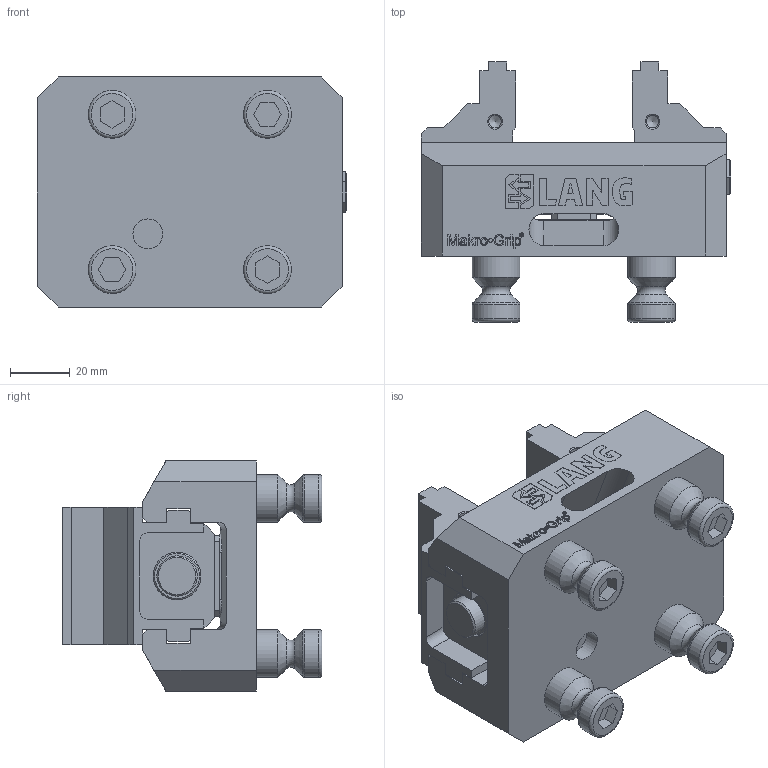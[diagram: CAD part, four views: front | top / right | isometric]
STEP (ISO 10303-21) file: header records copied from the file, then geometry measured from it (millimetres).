
FILE_DESCRIPTION (( 'STEP AP214' ), '1' );
FILE_NAME ('48085-46.STEP', '2020-02-04T12:19:24', ( '' ), ( '' ), 'SwSTEP 2.0', 'SolidWorks 2019', '' );
FILE_SCHEMA (( 'AUTOMOTIVE_DESIGN' ));
Length unit declared in the file: millimetre
Products named in the file (3): 48085-46; 48085-4620; Makro-Grip_48085-46
Assembly tree (3 placements, depth 2):
  48085-46
    Makro-Grip_48085-46
    48085-4620  x2
Bounding box: 103.5 x 87 x 77.2 mm (x, y, z)
Volume: 272350.4 mm3; surface area: 75611.1 mm2
Topology: 50 solids, 50 shells, 912 faces, 2318 edges, 1523 vertices
Faces by surface type: plane 623, bspline 192, cylinder 58, cone 27, torus 12
Full cylindrical faces by diameter (mm): 4.2 x4, 6.8 x4, 10 x1, 12 x8, 13.5 x1, 16 x12
Entity records: 42800 total; most frequent: CARTESIAN_POINT 13887, ORIENTED_EDGE 4172, DIRECTION 3105, EDGE_CURVE 2086, LINE 1571, VECTOR 1571, VERTEX_POINT 1409, EDGE_LOOP 963
